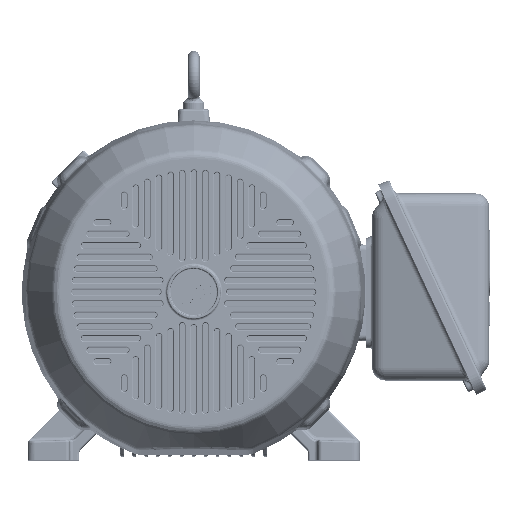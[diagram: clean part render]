
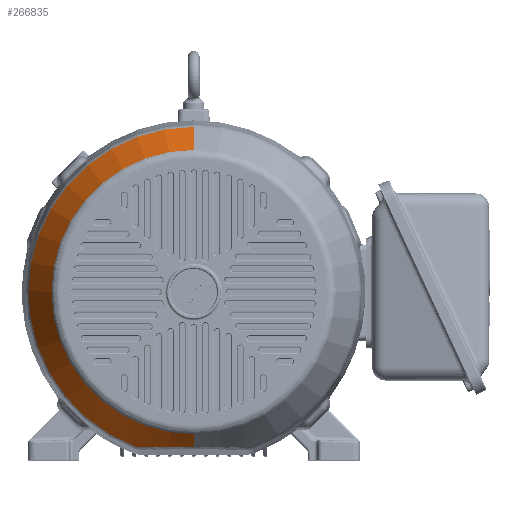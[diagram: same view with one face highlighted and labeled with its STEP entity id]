
A CAD part, top view. The second image highlights one B-rep face of the part: STEP entity #266835.
In plain terms, the highlighted conical face has half-angle 30 degrees and reference radius 255.525 mm.
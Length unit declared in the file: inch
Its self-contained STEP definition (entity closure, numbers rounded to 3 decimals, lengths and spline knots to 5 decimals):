
#258561=CARTESIAN_POINT('',(3.81286,-10.11872,
-5.82586));
#258562=CARTESIAN_POINT('',(3.65687,-10.1189,
-5.92084));
#258563=CARTESIAN_POINT('',(3.34567,-10.11941,
-6.09948));
#258564=CARTESIAN_POINT('',(2.90008,-10.12043,
-6.32573));
#258565=CARTESIAN_POINT('',(2.4157,-10.1217,
-6.53785));
#258566=CARTESIAN_POINT('',(1.90238,-10.12309,
-6.72194));
#258567=CARTESIAN_POINT('',(1.34925,-10.12442,
-6.87322));
#258568=CARTESIAN_POINT('',(0.73206,-10.12551,
-6.98374));
#258569=CARTESIAN_POINT('',(0.25443,-10.12585,
-7.01647));
#258570=CARTESIAN_POINT('',(0.,-10.12585,
-7.01647));
#258572=DIRECTION('',(0.,0.5,0.866));
#258573=VECTOR('',#258572,3.01277);
#258574=CARTESIAN_POINT('',(0.,9.30687,-8.435));
#258575=LINE('',#258574,#258573);
#258576=CARTESIAN_POINT('',(0.,0.,-8.435));
#258577=DIRECTION('',(0.,0.,-1.));
#258578=DIRECTION('',(0.,1.,0.));
#258579=AXIS2_PLACEMENT_3D('',#258576,#258577,#258578);
#258581=DIRECTION('',(0.,-0.5,0.866));
#258582=VECTOR('',#258581,1.63798);
#258583=CARTESIAN_POINT('',(0.,-9.30687,-8.435));
#258584=LINE('',#258583,#258582);
#259120=CARTESIAN_POINT('',(0.,0.,-5.82586));
#259121=DIRECTION('',(0.,0.,-1.));
#259122=DIRECTION('',(0.,1.,0.));
#259123=AXIS2_PLACEMENT_3D('',#259120,#259121,#259122);
#259135=CARTESIAN_POINT('',(0.,-10.12585,
-7.01647));
#264638=CARTESIAN_POINT('',(0.,9.30687,-8.435));
#264640=VERTEX_POINT('',#264638);
#264641=CARTESIAN_POINT('',(0.,10.81325,-5.82586));
#264642=VERTEX_POINT('',#264641);
#264644=CARTESIAN_POINT('',(0.,-9.30687,-8.435));
#264646=VERTEX_POINT('',#264644);
#265052=VERTEX_POINT('',#259135);
#265054=VERTEX_POINT('',#258561);
#266819=CARTESIAN_POINT('',(0.,0.,-7.13043));
#266820=DIRECTION('',(0.,0.,1.));
#266821=DIRECTION('',(0.,1.,0.));
#266822=AXIS2_PLACEMENT_3D('',#266819,#266820,#266821);
#266823=CONICAL_SURFACE('',#266822,10.06006,30.);
#266825=ORIENTED_EDGE('',*,*,#266824,.F.);
#266827=ORIENTED_EDGE('',*,*,#266826,.F.);
#266829=ORIENTED_EDGE('',*,*,#266828,.F.);
#266830=ORIENTED_EDGE('',*,*,#266814,.T.);
#266832=ORIENTED_EDGE('',*,*,#266831,.T.);
#266833=EDGE_LOOP('',(#266825,#266827,#266829,#266830,#266832));
#266834=FACE_OUTER_BOUND('',#266833,.F.);
#266835=ADVANCED_FACE('',(#266834),#266823,.T.);
#258571=B_SPLINE_CURVE_WITH_KNOTS('',3,(#258561,#258562,#258563,#258564,#258565,
#258566,#258567,#258568,#258569,#258570),.UNSPECIFIED.,.F.,.F.,(4,1,1,1,1,1,1,
4),(0.,0.14286,0.28571,0.42857,
0.57143,0.71429,0.85714,1.),.UNSPECIFIED.);
#258580=CIRCLE('',#258579,9.30687);
#259124=CIRCLE('',#259123,10.81325);
#266814=EDGE_CURVE('',#264640,#264646,#258580,.T.);
#266824=EDGE_CURVE('',#265054,#265052,#258571,.T.);
#266826=EDGE_CURVE('',#264642,#265054,#259124,.T.);
#266828=EDGE_CURVE('',#264640,#264642,#258575,.T.);
#266831=EDGE_CURVE('',#264646,#265052,#258584,.T.);
